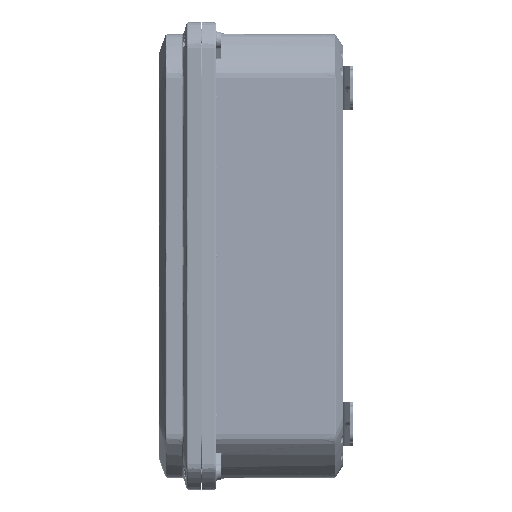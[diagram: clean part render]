
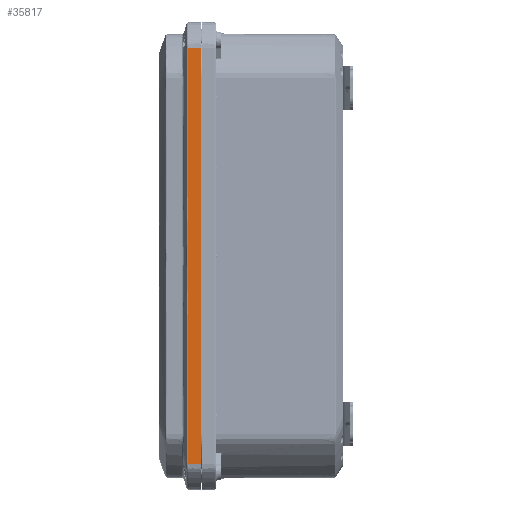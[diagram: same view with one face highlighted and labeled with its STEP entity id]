
A CAD part, left-side view. The second image highlights one B-rep face of the part: STEP entity #35817.
In plain terms, the highlighted planar face has unit normal (-0.999, 0.035, 0).
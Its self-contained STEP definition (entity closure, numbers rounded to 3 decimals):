
#8538 = CARTESIAN_POINT ( 'NONE',  ( -7.607, 0.363, 0. ) ) ;
#8568 = CARTESIAN_POINT ( 'NONE',  ( -7.607, 0.363, -3.436 ) ) ;
#8575 = DIRECTION ( 'NONE',  ( -0.035, -0.999, 0. ) ) ;
#9639 = CARTESIAN_POINT ( 'NONE',  ( -7.607, 0.363, -5.676 ) ) ;
#10008 = CARTESIAN_POINT ( 'NONE',  ( -7.62, 0., 5.89 ) ) ;
#10233 = VERTEX_POINT ( 'NONE', #10008 ) ;
#15124 = CARTESIAN_POINT ( 'NONE',  ( -7.607, 0.363, 5.829 ) ) ;
#17290 = CARTESIAN_POINT ( 'NONE',  ( -7.607, 0.363, 3.436 ) ) ;
#18360 = CARTESIAN_POINT ( 'NONE',  ( -7.607, 0.363, 0. ) ) ;
#21140 = VERTEX_POINT ( 'NONE', #8538 ) ;
#23783 = PLANE ( 'NONE',  #74669 ) ;
#29278 = VECTOR ( 'NONE', #159734, 39.37 ) ;
#35817 = ADVANCED_FACE ( 'NONE', ( #204964 ), #23783, .T. ) ;
#36564 = DIRECTION ( 'NONE',  ( -0.035, -0.999, 0. ) ) ;
#41991 = EDGE_LOOP ( 'NONE', ( #99667, #174326, #135239, #130846, #178456 ) ) ;
#47700 = CARTESIAN_POINT ( 'NONE',  ( -7.607, 0.363, 5.676 ) ) ;
#59515 = CARTESIAN_POINT ( 'NONE',  ( -7.607, 0.363, -5.89 ) ) ;
#74669 = AXIS2_PLACEMENT_3D ( 'NONE', #139923, #173544, #8575 ) ;
#74802 = CARTESIAN_POINT ( 'NONE',  ( -7.607, 0.363, -4.663 ) ) ;
#75888 = CARTESIAN_POINT ( 'NONE',  ( -7.607, 0.363, -5.86 ) ) ;
#76219 = CARTESIAN_POINT ( 'NONE',  ( -7.62, 0., 5.89 ) ) ;
#81529 = EDGE_CURVE ( 'NONE', #207677, #10233, #172815, .T. ) ;
#85536 = LINE ( 'NONE', #200430, #203752 ) ;
#93256 = CARTESIAN_POINT ( 'NONE',  ( -7.607, 0.363, -3.927 ) ) ;
#96647 = B_SPLINE_CURVE_WITH_KNOTS ( 'NONE', 3,
 ( #212586, #149745, #148662, #15124, #130244, #47700, #101986, #167063, #100908, #17290, #97700, #181126, #18360 ),
 .UNSPECIFIED., .F., .F.,
 ( 4, 2, 1, 1, 1, 1, 1, 2, 4 ),
 ( 0., 0.001, 0.002, 0.005, 0.009, 0.019, 0.037, 0.075, 0.15 ),
 .UNSPECIFIED. ) ;
#97700 = CARTESIAN_POINT ( 'NONE',  ( -7.607, 0.363, 1.963 ) ) ;
#99667 = ORIENTED_EDGE ( 'NONE', *, *, #199493, .T. ) ;
#100908 = CARTESIAN_POINT ( 'NONE',  ( -7.607, 0.363, 4.172 ) ) ;
#101986 = CARTESIAN_POINT ( 'NONE',  ( -7.607, 0.363, 5.461 ) ) ;
#106349 = CARTESIAN_POINT ( 'NONE',  ( -7.607, 0.363, 0. ) ) ;
#107781 = CARTESIAN_POINT ( 'NONE',  ( -7.607, 0.363, -5.89 ) ) ;
#122662 = EDGE_CURVE ( 'NONE', #123998, #10233, #166011, .T. ) ;
#123998 = VERTEX_POINT ( 'NONE', #180860 ) ;
#124744 = CARTESIAN_POINT ( 'NONE',  ( -7.607, 0.363, -5.829 ) ) ;
#129464 = VECTOR ( 'NONE', #134540, 39.37 ) ;
#130244 = CARTESIAN_POINT ( 'NONE',  ( -7.607, 0.363, 5.783 ) ) ;
#130846 = ORIENTED_EDGE ( 'NONE', *, *, #122662, .T. ) ;
#134540 = DIRECTION ( 'NONE',  ( 0., 0., 1. ) ) ;
#135239 = ORIENTED_EDGE ( 'NONE', *, *, #151881, .T. ) ;
#135578 = CARTESIAN_POINT ( 'NONE',  ( -7.62, 0., -5.89 ) ) ;
#139923 = CARTESIAN_POINT ( 'NONE',  ( -7.62, 0., -5.89 ) ) ;
#142054 = CARTESIAN_POINT ( 'NONE',  ( -7.607, 0.363, -5.875 ) ) ;
#148662 = CARTESIAN_POINT ( 'NONE',  ( -7.607, 0.363, 5.86 ) ) ;
#149745 = CARTESIAN_POINT ( 'NONE',  ( -7.607, 0.363, 5.875 ) ) ;
#151881 = EDGE_CURVE ( 'NONE', #167812, #123998, #85536, .T. ) ;
#152809 = EDGE_CURVE ( 'NONE', #21140, #167812, #183014, .T. ) ;
#157275 = CARTESIAN_POINT ( 'NONE',  ( -7.607, 0.363, -0.982 ) ) ;
#159405 = CARTESIAN_POINT ( 'NONE',  ( -7.607, 0.363, -5.783 ) ) ;
#159734 = DIRECTION ( 'NONE',  ( -0.035, -0.999, 0. ) ) ;
#160446 = CARTESIAN_POINT ( 'NONE',  ( -7.607, 0.363, -1.963 ) ) ;
#165908 = CARTESIAN_POINT ( 'NONE',  ( -7.607, 0.363, 5.89 ) ) ;
#166011 = LINE ( 'NONE', #135578, #129464 ) ;
#167063 = CARTESIAN_POINT ( 'NONE',  ( -7.607, 0.363, 5.031 ) ) ;
#167812 = VERTEX_POINT ( 'NONE', #107781 ) ;
#172815 = LINE ( 'NONE', #76219, #29278 ) ;
#173544 = DIRECTION ( 'NONE',  ( -0.999, 0.035, 0. ) ) ;
#174326 = ORIENTED_EDGE ( 'NONE', *, *, #152809, .T. ) ;
#174581 = CARTESIAN_POINT ( 'NONE',  ( -7.607, 0.363, -5.031 ) ) ;
#178456 = ORIENTED_EDGE ( 'NONE', *, *, #81529, .F. ) ;
#180860 = CARTESIAN_POINT ( 'NONE',  ( -7.62, 0., -5.89 ) ) ;
#181126 = CARTESIAN_POINT ( 'NONE',  ( -7.607, 0.363, 0.982 ) ) ;
#183014 = B_SPLINE_CURVE_WITH_KNOTS ( 'NONE', 3,
 ( #106349, #157275, #160446, #8568, #93256, #74802, #174581, #207097, #9639, #159405, #124744, #75888, #142054, #59515 ),
 .UNSPECIFIED., .F., .F.,
 ( 4, 2, 2, 1, 1, 1, 1, 2, 4 ),
 ( 0., 0.075, 0.112, 0.131, 0.14, 0.145, 0.147, 0.148, 0.15 ),
 .UNSPECIFIED. ) ;
#199493 = EDGE_CURVE ( 'NONE', #207677, #21140, #96647, .T. ) ;
#200430 = CARTESIAN_POINT ( 'NONE',  ( -7.62, 0., -5.89 ) ) ;
#203752 = VECTOR ( 'NONE', #36564, 39.37 ) ;
#204964 = FACE_OUTER_BOUND ( 'NONE', #41991, .T. ) ;
#207097 = CARTESIAN_POINT ( 'NONE',  ( -7.607, 0.363, -5.461 ) ) ;
#207677 = VERTEX_POINT ( 'NONE', #165908 ) ;
#212586 = CARTESIAN_POINT ( 'NONE',  ( -7.607, 0.363, 5.89 ) ) ;
